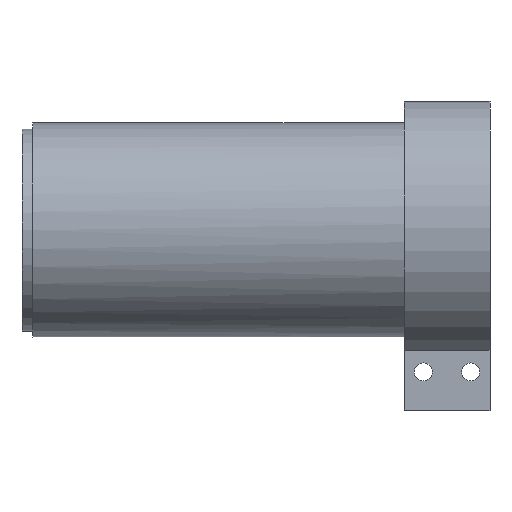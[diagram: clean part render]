
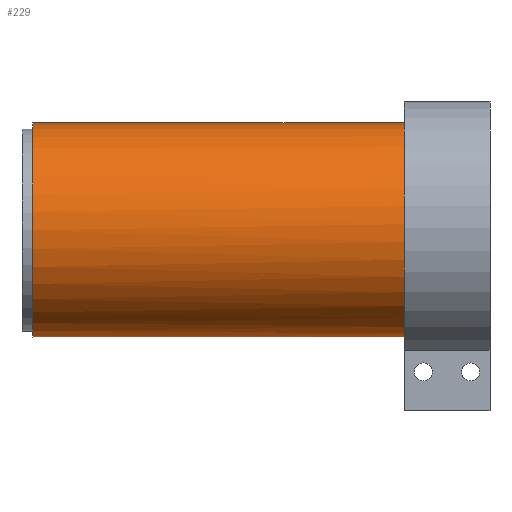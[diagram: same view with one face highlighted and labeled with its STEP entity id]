
A CAD part, left-side view. The second image highlights one B-rep face of the part: STEP entity #229.
In plain terms, the highlighted cylindrical face has radius 24.98 mm (diameter 49.96 mm), a full revolution.
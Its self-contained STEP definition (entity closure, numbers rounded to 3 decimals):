
#93 = PLANE('',#94);
#94 = AXIS2_PLACEMENT_3D('',#95,#96,#97);
#95 = CARTESIAN_POINT('',(0.,-39.5,0.));
#96 = DIRECTION('',(0.,1.,0.));
#97 = DIRECTION('',(0.,-0.,1.));
#144 = EDGE_CURVE('',#145,#145,#147,.T.);
#145 = VERTEX_POINT('',#146);
#146 = CARTESIAN_POINT('',(0.,-39.5,24.98));
#147 = SURFACE_CURVE('',#148,(#153,#160),.PCURVE_S1.);
#148 = CIRCLE('',#149,24.98);
#149 = AXIS2_PLACEMENT_3D('',#150,#151,#152);
#150 = CARTESIAN_POINT('',(0.,-39.5,0.));
#151 = DIRECTION('',(0.,1.,0.));
#152 = DIRECTION('',(0.,-0.,1.));
#153 = PCURVE('',#93,#154);
#154 = DEFINITIONAL_REPRESENTATION('',(#155),#159);
#155 = CIRCLE('',#156,24.98);
#156 = AXIS2_PLACEMENT_2D('',#157,#158);
#157 = CARTESIAN_POINT('',(0.,0.));
#158 = DIRECTION('',(1.,0.));
#159 = ( GEOMETRIC_REPRESENTATION_CONTEXT(2) 
PARAMETRIC_REPRESENTATION_CONTEXT() REPRESENTATION_CONTEXT('2D SPACE',''
  ) );
#160 = PCURVE('',#161,#166);
#161 = CYLINDRICAL_SURFACE('',#162,24.98);
#162 = AXIS2_PLACEMENT_3D('',#163,#164,#165);
#163 = CARTESIAN_POINT('',(0.,-126.,0.));
#164 = DIRECTION('',(0.,1.,0.));
#165 = DIRECTION('',(0.,-0.,1.));
#166 = DEFINITIONAL_REPRESENTATION('',(#167),#171);
#167 = LINE('',#168,#169);
#168 = CARTESIAN_POINT('',(0.,86.5));
#169 = VECTOR('',#170,1.);
#170 = DIRECTION('',(1.,0.));
#171 = ( GEOMETRIC_REPRESENTATION_CONTEXT(2) 
PARAMETRIC_REPRESENTATION_CONTEXT() REPRESENTATION_CONTEXT('2D SPACE',''
  ) );
#229 = ADVANCED_FACE('',(#230),#161,.T.);
#230 = FACE_BOUND('',#231,.T.);
#231 = EDGE_LOOP('',(#232,#255,#256,#257,#286,#315,#344,#373));
#232 = ORIENTED_EDGE('',*,*,#233,.T.);
#233 = EDGE_CURVE('',#234,#145,#236,.T.);
#234 = VERTEX_POINT('',#235);
#235 = CARTESIAN_POINT('',(0.,-126.,24.98));
#236 = SEAM_CURVE('',#237,(#241,#248),.PCURVE_S1.);
#237 = LINE('',#238,#239);
#238 = CARTESIAN_POINT('',(0.,-126.,24.98));
#239 = VECTOR('',#240,1.);
#240 = DIRECTION('',(0.,1.,0.));
#241 = PCURVE('',#161,#242);
#242 = DEFINITIONAL_REPRESENTATION('',(#243),#247);
#243 = LINE('',#244,#245);
#244 = CARTESIAN_POINT('',(6.283,-0.));
#245 = VECTOR('',#246,1.);
#246 = DIRECTION('',(0.,1.));
#247 = ( GEOMETRIC_REPRESENTATION_CONTEXT(2) 
PARAMETRIC_REPRESENTATION_CONTEXT() REPRESENTATION_CONTEXT('2D SPACE',''
  ) );
#248 = PCURVE('',#161,#249);
#249 = DEFINITIONAL_REPRESENTATION('',(#250),#254);
#250 = LINE('',#251,#252);
#251 = CARTESIAN_POINT('',(0.,-0.));
#252 = VECTOR('',#253,1.);
#253 = DIRECTION('',(0.,1.));
#254 = ( GEOMETRIC_REPRESENTATION_CONTEXT(2) 
PARAMETRIC_REPRESENTATION_CONTEXT() REPRESENTATION_CONTEXT('2D SPACE',''
  ) );
#255 = ORIENTED_EDGE('',*,*,#144,.F.);
#256 = ORIENTED_EDGE('',*,*,#233,.F.);
#257 = ORIENTED_EDGE('',*,*,#258,.T.);
#258 = EDGE_CURVE('',#234,#259,#261,.T.);
#259 = VERTEX_POINT('',#260);
#260 = CARTESIAN_POINT('',(6.928,-126.,-24.));
#261 = SURFACE_CURVE('',#262,(#267,#274),.PCURVE_S1.);
#262 = CIRCLE('',#263,24.98);
#263 = AXIS2_PLACEMENT_3D('',#264,#265,#266);
#264 = CARTESIAN_POINT('',(0.,-126.,0.));
#265 = DIRECTION('',(0.,1.,0.));
#266 = DIRECTION('',(0.,-0.,1.));
#267 = PCURVE('',#161,#268);
#268 = DEFINITIONAL_REPRESENTATION('',(#269),#273);
#269 = LINE('',#270,#271);
#270 = CARTESIAN_POINT('',(0.,0.));
#271 = VECTOR('',#272,1.);
#272 = DIRECTION('',(1.,0.));
#273 = ( GEOMETRIC_REPRESENTATION_CONTEXT(2) 
PARAMETRIC_REPRESENTATION_CONTEXT() REPRESENTATION_CONTEXT('2D SPACE',''
  ) );
#274 = PCURVE('',#275,#280);
#275 = PLANE('',#276);
#276 = AXIS2_PLACEMENT_3D('',#277,#278,#279);
#277 = CARTESIAN_POINT('',(0.,-126.,0.));
#278 = DIRECTION('',(0.,1.,0.));
#279 = DIRECTION('',(0.,-0.,1.));
#280 = DEFINITIONAL_REPRESENTATION('',(#281),#285);
#281 = CIRCLE('',#282,24.98);
#282 = AXIS2_PLACEMENT_2D('',#283,#284);
#283 = CARTESIAN_POINT('',(0.,0.));
#284 = DIRECTION('',(1.,0.));
#285 = ( GEOMETRIC_REPRESENTATION_CONTEXT(2) 
PARAMETRIC_REPRESENTATION_CONTEXT() REPRESENTATION_CONTEXT('2D SPACE',''
  ) );
#286 = ORIENTED_EDGE('',*,*,#287,.T.);
#287 = EDGE_CURVE('',#259,#288,#290,.T.);
#288 = VERTEX_POINT('',#289);
#289 = CARTESIAN_POINT('',(1.,-126.,-24.96));
#290 = SURFACE_CURVE('',#291,(#296,#303),.PCURVE_S1.);
#291 = CIRCLE('',#292,24.98);
#292 = AXIS2_PLACEMENT_3D('',#293,#294,#295);
#293 = CARTESIAN_POINT('',(0.,-126.,0.));
#294 = DIRECTION('',(0.,1.,0.));
#295 = DIRECTION('',(0.,-0.,1.));
#296 = PCURVE('',#161,#297);
#297 = DEFINITIONAL_REPRESENTATION('',(#298),#302);
#298 = LINE('',#299,#300);
#299 = CARTESIAN_POINT('',(0.,0.));
#300 = VECTOR('',#301,1.);
#301 = DIRECTION('',(1.,0.));
#302 = ( GEOMETRIC_REPRESENTATION_CONTEXT(2) 
PARAMETRIC_REPRESENTATION_CONTEXT() REPRESENTATION_CONTEXT('2D SPACE',''
  ) );
#303 = PCURVE('',#304,#309);
#304 = PLANE('',#305);
#305 = AXIS2_PLACEMENT_3D('',#306,#307,#308);
#306 = CARTESIAN_POINT('',(0.,-126.,0.));
#307 = DIRECTION('',(0.,1.,0.));
#308 = DIRECTION('',(0.,-0.,1.));
#309 = DEFINITIONAL_REPRESENTATION('',(#310),#314);
#310 = CIRCLE('',#311,24.98);
#311 = AXIS2_PLACEMENT_2D('',#312,#313);
#312 = CARTESIAN_POINT('',(0.,0.));
#313 = DIRECTION('',(1.,0.));
#314 = ( GEOMETRIC_REPRESENTATION_CONTEXT(2) 
PARAMETRIC_REPRESENTATION_CONTEXT() REPRESENTATION_CONTEXT('2D SPACE',''
  ) );
#315 = ORIENTED_EDGE('',*,*,#316,.T.);
#316 = EDGE_CURVE('',#288,#317,#319,.T.);
#317 = VERTEX_POINT('',#318);
#318 = CARTESIAN_POINT('',(-1.,-126.,-24.96));
#319 = SURFACE_CURVE('',#320,(#325,#332),.PCURVE_S1.);
#320 = CIRCLE('',#321,24.98);
#321 = AXIS2_PLACEMENT_3D('',#322,#323,#324);
#322 = CARTESIAN_POINT('',(0.,-126.,0.));
#323 = DIRECTION('',(0.,1.,0.));
#324 = DIRECTION('',(0.,-0.,1.));
#325 = PCURVE('',#161,#326);
#326 = DEFINITIONAL_REPRESENTATION('',(#327),#331);
#327 = LINE('',#328,#329);
#328 = CARTESIAN_POINT('',(0.,0.));
#329 = VECTOR('',#330,1.);
#330 = DIRECTION('',(1.,0.));
#331 = ( GEOMETRIC_REPRESENTATION_CONTEXT(2) 
PARAMETRIC_REPRESENTATION_CONTEXT() REPRESENTATION_CONTEXT('2D SPACE',''
  ) );
#332 = PCURVE('',#333,#338);
#333 = PLANE('',#334);
#334 = AXIS2_PLACEMENT_3D('',#335,#336,#337);
#335 = CARTESIAN_POINT('',(0.,-126.,0.));
#336 = DIRECTION('',(0.,1.,0.));
#337 = DIRECTION('',(0.,-0.,1.));
#338 = DEFINITIONAL_REPRESENTATION('',(#339),#343);
#339 = CIRCLE('',#340,24.98);
#340 = AXIS2_PLACEMENT_2D('',#341,#342);
#341 = CARTESIAN_POINT('',(0.,0.));
#342 = DIRECTION('',(1.,0.));
#343 = ( GEOMETRIC_REPRESENTATION_CONTEXT(2) 
PARAMETRIC_REPRESENTATION_CONTEXT() REPRESENTATION_CONTEXT('2D SPACE',''
  ) );
#344 = ORIENTED_EDGE('',*,*,#345,.T.);
#345 = EDGE_CURVE('',#317,#346,#348,.T.);
#346 = VERTEX_POINT('',#347);
#347 = CARTESIAN_POINT('',(-6.928,-126.,-24.));
#348 = SURFACE_CURVE('',#349,(#354,#361),.PCURVE_S1.);
#349 = CIRCLE('',#350,24.98);
#350 = AXIS2_PLACEMENT_3D('',#351,#352,#353);
#351 = CARTESIAN_POINT('',(0.,-126.,0.));
#352 = DIRECTION('',(0.,1.,0.));
#353 = DIRECTION('',(0.,-0.,1.));
#354 = PCURVE('',#161,#355);
#355 = DEFINITIONAL_REPRESENTATION('',(#356),#360);
#356 = LINE('',#357,#358);
#357 = CARTESIAN_POINT('',(0.,0.));
#358 = VECTOR('',#359,1.);
#359 = DIRECTION('',(1.,0.));
#360 = ( GEOMETRIC_REPRESENTATION_CONTEXT(2) 
PARAMETRIC_REPRESENTATION_CONTEXT() REPRESENTATION_CONTEXT('2D SPACE',''
  ) );
#361 = PCURVE('',#362,#367);
#362 = PLANE('',#363);
#363 = AXIS2_PLACEMENT_3D('',#364,#365,#366);
#364 = CARTESIAN_POINT('',(0.,-126.,0.));
#365 = DIRECTION('',(0.,1.,0.));
#366 = DIRECTION('',(0.,-0.,1.));
#367 = DEFINITIONAL_REPRESENTATION('',(#368),#372);
#368 = CIRCLE('',#369,24.98);
#369 = AXIS2_PLACEMENT_2D('',#370,#371);
#370 = CARTESIAN_POINT('',(0.,0.));
#371 = DIRECTION('',(1.,0.));
#372 = ( GEOMETRIC_REPRESENTATION_CONTEXT(2) 
PARAMETRIC_REPRESENTATION_CONTEXT() REPRESENTATION_CONTEXT('2D SPACE',''
  ) );
#373 = ORIENTED_EDGE('',*,*,#374,.T.);
#374 = EDGE_CURVE('',#346,#234,#375,.T.);
#375 = SURFACE_CURVE('',#376,(#381,#388),.PCURVE_S1.);
#376 = CIRCLE('',#377,24.98);
#377 = AXIS2_PLACEMENT_3D('',#378,#379,#380);
#378 = CARTESIAN_POINT('',(0.,-126.,0.));
#379 = DIRECTION('',(0.,1.,0.));
#380 = DIRECTION('',(0.,-0.,1.));
#381 = PCURVE('',#161,#382);
#382 = DEFINITIONAL_REPRESENTATION('',(#383),#387);
#383 = LINE('',#384,#385);
#384 = CARTESIAN_POINT('',(0.,0.));
#385 = VECTOR('',#386,1.);
#386 = DIRECTION('',(1.,0.));
#387 = ( GEOMETRIC_REPRESENTATION_CONTEXT(2) 
PARAMETRIC_REPRESENTATION_CONTEXT() REPRESENTATION_CONTEXT('2D SPACE',''
  ) );
#388 = PCURVE('',#275,#389);
#389 = DEFINITIONAL_REPRESENTATION('',(#390),#394);
#390 = CIRCLE('',#391,24.98);
#391 = AXIS2_PLACEMENT_2D('',#392,#393);
#392 = CARTESIAN_POINT('',(0.,0.));
#393 = DIRECTION('',(1.,0.));
#394 = ( GEOMETRIC_REPRESENTATION_CONTEXT(2) 
PARAMETRIC_REPRESENTATION_CONTEXT() REPRESENTATION_CONTEXT('2D SPACE',''
  ) );
